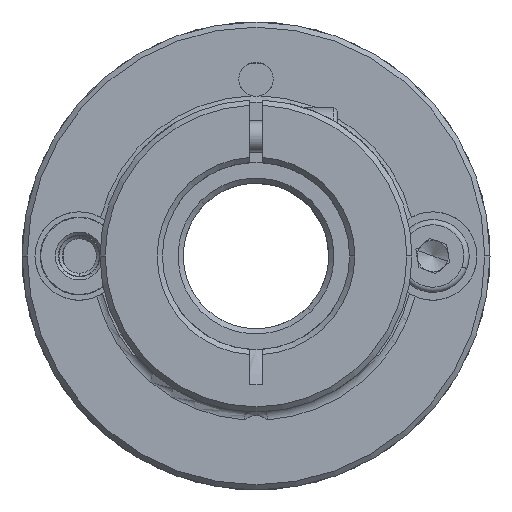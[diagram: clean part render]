
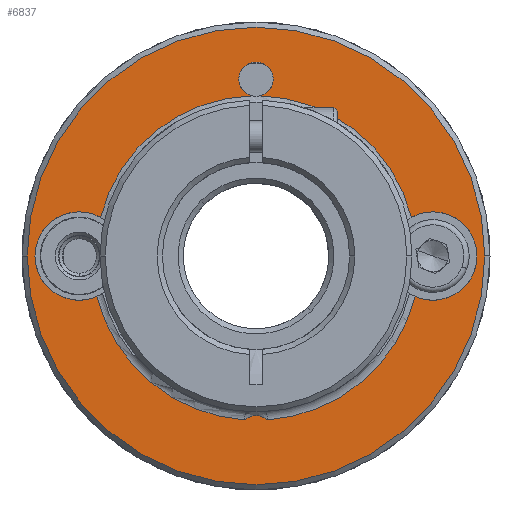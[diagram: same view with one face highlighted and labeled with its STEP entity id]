
A CAD part, front view. The second image highlights one B-rep face of the part: STEP entity #6837.
In plain terms, the highlighted planar face has unit normal (0, -1, 0).
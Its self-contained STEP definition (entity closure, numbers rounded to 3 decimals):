
#7 = EDGE_CURVE ( 'NONE', #1852, #9288, #8239, .T. ) ;
#138 = DIRECTION ( 'NONE',  ( 0., -1., 0. ) ) ;
#169 = CARTESIAN_POINT ( 'NONE',  ( -8.003, -8.743, 62. ) ) ;
#407 = EDGE_CURVE ( 'NONE', #12645, #8074, #1718, .T. ) ;
#515 = EDGE_CURVE ( 'NONE', #14072, #9821, #9322, .T. ) ;
#610 = AXIS2_PLACEMENT_3D ( 'NONE', #6382, #5288, #7661 ) ;
#669 = ORIENTED_EDGE ( 'NONE', *, *, #2873, .T. ) ;
#703 = DIRECTION ( 'NONE',  ( 0., -1., 0. ) ) ;
#729 = DIRECTION ( 'NONE',  ( 0., 1., 0. ) ) ;
#742 = CARTESIAN_POINT ( 'NONE',  ( -9.653, -8.743, 45. ) ) ;
#1272 = EDGE_CURVE ( 'NONE', #12992, #4947, #5400, .T. ) ;
#1481 = ORIENTED_EDGE ( 'NONE', *, *, #9147, .T. ) ;
#1615 = VERTEX_POINT ( 'NONE', #2203 ) ;
#1718 = CIRCLE ( 'NONE', #7842, 1.65 ) ;
#1852 = VERTEX_POINT ( 'NONE', #6257 ) ;
#2107 = AXIS2_PLACEMENT_3D ( 'NONE', #3433, #12639, #6740 ) ;
#2203 = CARTESIAN_POINT ( 'NONE',  ( -24.597, -8.743, 48.72 ) ) ;
#2609 = EDGE_CURVE ( 'NONE', #6715, #9249, #12568, .T. ) ;
#2625 = EDGE_LOOP ( 'NONE', ( #12784, #6625, #9347, #2659, #669, #9298, #3231, #10697, #3956, #11242, #1481, #5540 ) ) ;
#2659 = ORIENTED_EDGE ( 'NONE', *, *, #9999, .T. ) ;
#2735 = EDGE_CURVE ( 'NONE', #4947, #12992, #7459, .T. ) ;
#2756 = EDGE_CURVE ( 'NONE', #6466, #1852, #14915, .T. ) ;
#2859 = DIRECTION ( 'NONE',  ( 0., 1., 0. ) ) ;
#2873 = EDGE_CURVE ( 'NONE', #1615, #4560, #4761, .T. ) ;
#2883 = AXIS2_PLACEMENT_3D ( 'NONE', #8836, #5479, #10016 ) ;
#2893 = CARTESIAN_POINT ( 'NONE',  ( -26.653, -8.743, 45. ) ) ;
#3030 = EDGE_CURVE ( 'NONE', #9288, #14072, #10944, .T. ) ;
#3122 = CARTESIAN_POINT ( 'NONE',  ( -10.037, -8.743, 60.395 ) ) ;
#3231 = ORIENTED_EDGE ( 'NONE', *, *, #3309, .T. ) ;
#3288 = CARTESIAN_POINT ( 'NONE',  ( -9.653, -8.743, 45. ) ) ;
#3309 = EDGE_CURVE ( 'NONE', #11201, #12645, #7659, .T. ) ;
#3433 = CARTESIAN_POINT ( 'NONE',  ( -9.653, -8.743, 45. ) ) ;
#3562 = CARTESIAN_POINT ( 'NONE',  ( -9.653, -8.743, 62. ) ) ;
#3623 = CARTESIAN_POINT ( 'NONE',  ( -9.653, -8.743, 45. ) ) ;
#3673 = CARTESIAN_POINT ( 'NONE',  ( -9.653, -8.743, 45. ) ) ;
#3758 = DIRECTION ( 'NONE',  ( 1., 0., 0. ) ) ;
#3865 = EDGE_LOOP ( 'NONE', ( #14785, #9747 ) ) ;
#3956 = ORIENTED_EDGE ( 'NONE', *, *, #13402, .T. ) ;
#4014 = CARTESIAN_POINT ( 'NONE',  ( -31.653, -8.743, 45. ) ) ;
#4049 = CIRCLE ( 'NONE', #14338, 15.4 ) ;
#4067 = DIRECTION ( 'NONE',  ( 1., 0., 0. ) ) ;
#4084 = CARTESIAN_POINT ( 'NONE',  ( -9.653, -8.743, 28. ) ) ;
#4451 = CARTESIAN_POINT ( 'NONE',  ( 5.658, -8.743, 41.1 ) ) ;
#4560 = VERTEX_POINT ( 'NONE', #3122 ) ;
#4761 = CIRCLE ( 'NONE', #5955, 15.4 ) ;
#4855 = CARTESIAN_POINT ( 'NONE',  ( -9.653, -8.743, 62. ) ) ;
#4947 = VERTEX_POINT ( 'NONE', #4014 ) ;
#5288 = DIRECTION ( 'NONE',  ( 0., 1., 0. ) ) ;
#5400 = CIRCLE ( 'NONE', #14402, 22. ) ;
#5479 = DIRECTION ( 'NONE',  ( 0., 1., 0. ) ) ;
#5540 = ORIENTED_EDGE ( 'NONE', *, *, #2756, .T. ) ;
#5578 = DIRECTION ( 'NONE',  ( 1., 0., 0. ) ) ;
#5749 = AXIS2_PLACEMENT_3D ( 'NONE', #742, #2859, #4067 ) ;
#5955 = AXIS2_PLACEMENT_3D ( 'NONE', #3673, #12935, #14045 ) ;
#6257 = CARTESIAN_POINT ( 'NONE',  ( -8.562, -8.743, 29.238 ) ) ;
#6382 = CARTESIAN_POINT ( 'NONE',  ( -26.653, -8.743, 45. ) ) ;
#6466 = VERTEX_POINT ( 'NONE', #4451 ) ;
#6547 = CARTESIAN_POINT ( 'NONE',  ( 7.347, -8.743, 45. ) ) ;
#6625 = ORIENTED_EDGE ( 'NONE', *, *, #3030, .T. ) ;
#6699 = AXIS2_PLACEMENT_3D ( 'NONE', #6547, #729, #7732 ) ;
#6715 = VERTEX_POINT ( 'NONE', #13004 ) ;
#6740 = DIRECTION ( 'NONE',  ( 1., 0., 0. ) ) ;
#6837 = ADVANCED_FACE ( 'NONE', ( #14287, #12469 ), #14525, .T. ) ;
#6871 = AXIS2_PLACEMENT_3D ( 'NONE', #4084, #703, #8830 ) ;
#6883 = DIRECTION ( 'NONE',  ( 1., 0., 0. ) ) ;
#7459 = CIRCLE ( 'NONE', #2107, 22. ) ;
#7598 = CARTESIAN_POINT ( 'NONE',  ( -11.303, -8.743, 62. ) ) ;
#7659 = CIRCLE ( 'NONE', #14230, 1.65 ) ;
#7661 = DIRECTION ( 'NONE',  ( 1., 0., 0. ) ) ;
#7732 = DIRECTION ( 'NONE',  ( 1., 0., 0. ) ) ;
#7842 = AXIS2_PLACEMENT_3D ( 'NONE', #4855, #10687, #3758 ) ;
#7914 = DIRECTION ( 'NONE',  ( 0., 1., 0. ) ) ;
#7943 = CIRCLE ( 'NONE', #610, 4.25 ) ;
#8074 = VERTEX_POINT ( 'NONE', #9126 ) ;
#8239 = CIRCLE ( 'NONE', #6871, 1.65 ) ;
#8830 = DIRECTION ( 'NONE',  ( 0., 0., -1. ) ) ;
#8836 = CARTESIAN_POINT ( 'NONE',  ( 7.347, -8.743, 45. ) ) ;
#9126 = CARTESIAN_POINT ( 'NONE',  ( -9.27, -8.743, 60.395 ) ) ;
#9147 = EDGE_CURVE ( 'NONE', #9249, #6466, #9243, .T. ) ;
#9234 = DIRECTION ( 'NONE',  ( 0., 1., 0. ) ) ;
#9243 = CIRCLE ( 'NONE', #6699, 4.25 ) ;
#9249 = VERTEX_POINT ( 'NONE', #13419 ) ;
#9280 = DIRECTION ( 'NONE',  ( 0., 1., 0. ) ) ;
#9288 = VERTEX_POINT ( 'NONE', #14781 ) ;
#9298 = ORIENTED_EDGE ( 'NONE', *, *, #11464, .T. ) ;
#9322 = CIRCLE ( 'NONE', #12807, 4.25 ) ;
#9347 = ORIENTED_EDGE ( 'NONE', *, *, #515, .T. ) ;
#9390 = DIRECTION ( 'NONE',  ( 1., 0., 0. ) ) ;
#9715 = CARTESIAN_POINT ( 'NONE',  ( -30.903, -8.743, 45. ) ) ;
#9747 = ORIENTED_EDGE ( 'NONE', *, *, #1272, .T. ) ;
#9821 = VERTEX_POINT ( 'NONE', #9715 ) ;
#9918 = CARTESIAN_POINT ( 'NONE',  ( -9.653, -8.743, 28. ) ) ;
#9999 = EDGE_CURVE ( 'NONE', #9821, #1615, #7943, .T. ) ;
#10016 = DIRECTION ( 'NONE',  ( 1., 0., 0. ) ) ;
#10382 = AXIS2_PLACEMENT_3D ( 'NONE', #9918, #11078, #12241 ) ;
#10444 = AXIS2_PLACEMENT_3D ( 'NONE', #3288, #7914, #5578 ) ;
#10541 = DIRECTION ( 'NONE',  ( 1., 0., 0. ) ) ;
#10687 = DIRECTION ( 'NONE',  ( 0., 1., 0. ) ) ;
#10697 = ORIENTED_EDGE ( 'NONE', *, *, #407, .T. ) ;
#10944 = CIRCLE ( 'NONE', #5749, 15.8 ) ;
#10953 = DIRECTION ( 'NONE',  ( 0., 1., 0. ) ) ;
#11078 = DIRECTION ( 'NONE',  ( 0., -1., 0. ) ) ;
#11114 = AXIS2_PLACEMENT_3D ( 'NONE', #3562, #9280, #10541 ) ;
#11201 = VERTEX_POINT ( 'NONE', #7598 ) ;
#11242 = ORIENTED_EDGE ( 'NONE', *, *, #2609, .T. ) ;
#11293 = CARTESIAN_POINT ( 'NONE',  ( -24.964, -8.743, 41.1 ) ) ;
#11464 = EDGE_CURVE ( 'NONE', #4560, #11201, #13164, .T. ) ;
#12205 = DIRECTION ( 'NONE',  ( 0., 1., 0. ) ) ;
#12241 = DIRECTION ( 'NONE',  ( -0.802, 0., 0.597 ) ) ;
#12469 = FACE_OUTER_BOUND ( 'NONE', #3865, .T. ) ;
#12568 = CIRCLE ( 'NONE', #2883, 4.25 ) ;
#12639 = DIRECTION ( 'NONE',  ( 0., -1., 0. ) ) ;
#12645 = VERTEX_POINT ( 'NONE', #169 ) ;
#12784 = ORIENTED_EDGE ( 'NONE', *, *, #7, .T. ) ;
#12807 = AXIS2_PLACEMENT_3D ( 'NONE', #2893, #12205, #14488 ) ;
#12935 = DIRECTION ( 'NONE',  ( 0., 1., 0. ) ) ;
#12992 = VERTEX_POINT ( 'NONE', #14679 ) ;
#13004 = CARTESIAN_POINT ( 'NONE',  ( 5.291, -8.743, 48.72 ) ) ;
#13127 = CARTESIAN_POINT ( 'NONE',  ( -9.653, -8.743, 45. ) ) ;
#13164 = CIRCLE ( 'NONE', #11114, 1.65 ) ;
#13402 = EDGE_CURVE ( 'NONE', #8074, #6715, #4049, .T. ) ;
#13419 = CARTESIAN_POINT ( 'NONE',  ( 11.597, -8.743, 45. ) ) ;
#13833 = CARTESIAN_POINT ( 'NONE',  ( -9.653, -8.743, 62. ) ) ;
#14045 = DIRECTION ( 'NONE',  ( 1., 0., 0. ) ) ;
#14072 = VERTEX_POINT ( 'NONE', #11293 ) ;
#14230 = AXIS2_PLACEMENT_3D ( 'NONE', #13833, #9234, #6883 ) ;
#14287 = FACE_BOUND ( 'NONE', #2625, .T. ) ;
#14313 = DIRECTION ( 'NONE',  ( 1., 0., 0. ) ) ;
#14338 = AXIS2_PLACEMENT_3D ( 'NONE', #13127, #10953, #14313 ) ;
#14402 = AXIS2_PLACEMENT_3D ( 'NONE', #3623, #138, #9390 ) ;
#14488 = DIRECTION ( 'NONE',  ( 1., 0., 0. ) ) ;
#14525 = PLANE ( 'NONE',  #10382 ) ;
#14679 = CARTESIAN_POINT ( 'NONE',  ( 12.347, -8.743, 45. ) ) ;
#14781 = CARTESIAN_POINT ( 'NONE',  ( -10.744, -8.743, 29.238 ) ) ;
#14785 = ORIENTED_EDGE ( 'NONE', *, *, #2735, .T. ) ;
#14915 = CIRCLE ( 'NONE', #10444, 15.8 ) ;
